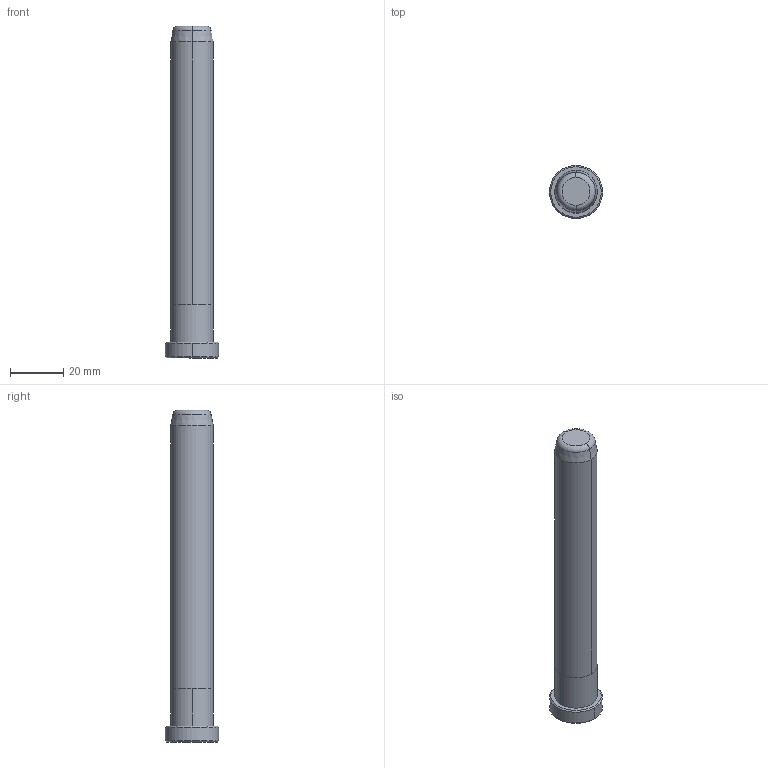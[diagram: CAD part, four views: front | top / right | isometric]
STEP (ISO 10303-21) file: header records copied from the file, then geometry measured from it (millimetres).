
FILE_DESCRIPTION((''),'2;1');
FILE_NAME('B80816125','2018-01-06T',('MANU'),(''),'PRO/ENGINEER BY PARAMETRIC TECHNOLOGY CORPORATION, 2012130','PRO/ENGINEER BY PARAMETRIC TECHNOLOGY CORPORATION, 2012130','');
FILE_SCHEMA(('CONFIG_CONTROL_DESIGN'));
Length unit declared in the file: millimetre
Products named in the file (1): B80816125
Bounding box: 20 x 20 x 125 mm (x, y, z)
Volume: 25626.9 mm3; surface area: 6859.1 mm2
Topology: 1 solids, 1 shells, 18 faces, 34 edges, 20 vertices
Faces by surface type: cone 6, cylinder 6, plane 4, torus 2
Entity records: 494 total; most frequent: DIRECTION 92, CARTESIAN_POINT 72, ORIENTED_EDGE 68, AXIS2_PLACEMENT_3D 40, EDGE_CURVE 34, CIRCLE 22, VERTEX_POINT 20, EDGE_LOOP 20
